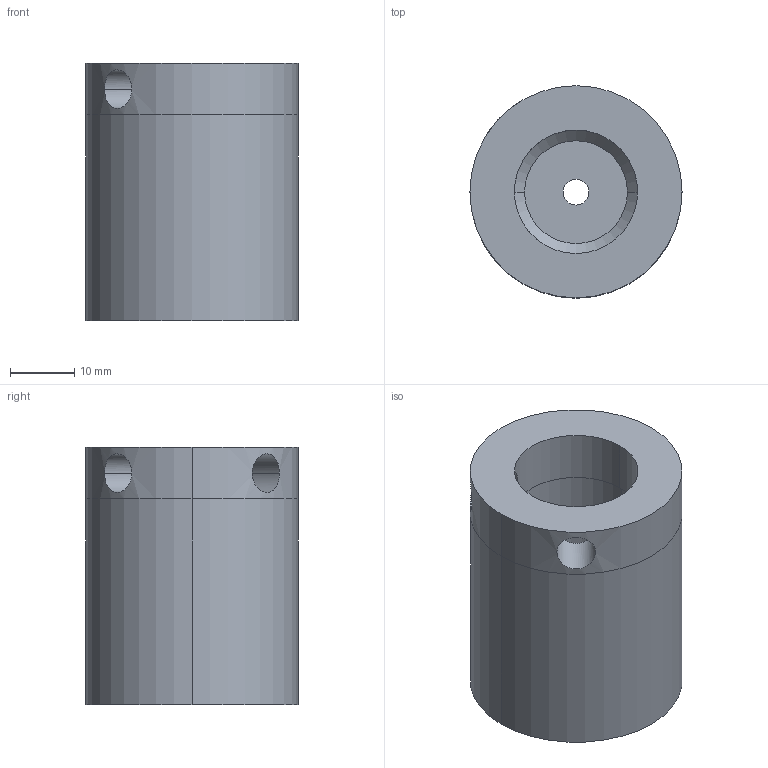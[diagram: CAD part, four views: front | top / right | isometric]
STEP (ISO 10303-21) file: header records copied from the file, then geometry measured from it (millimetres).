
FILE_DESCRIPTION(/* description */ (''),/* implementation_level */ '2;1');
FILE_NAME(/* name */ '3d_usn20-40_06266_r00.stp',/* time_stamp */ '2011-01-10T14:08:53+09:00',/* author */ ('MISUMI'),/* organization */ (''),/* preprocessor_version */ 'ST-DEVELOPER v11',/* originating_system */ 'UGS - NX 5.0',/* authorisation */ '');
FILE_SCHEMA (('CONFIG_CONTROL_DESIGN'));
Length unit declared in the file: millimetre
Products named in the file (1): 3d_usn20-40_06266_r00
Bounding box: 33 x 33 x 40 mm (x, y, z)
Volume: 23678 mm3; surface area: 8094 mm2
Topology: 1 solids, 1 shells, 20 faces, 44 edges, 28 vertices
Faces by surface type: cylinder 14, plane 4, cone 2
Entity records: 878 total; most frequent: CARTESIAN_POINT 333, DIRECTION 98, ORIENTED_EDGE 88, EDGE_CURVE 44, AXIS2_PLACEMENT_3D 41, EDGE_LOOP 28, VERTEX_POINT 28, ADVANCED_FACE 20
